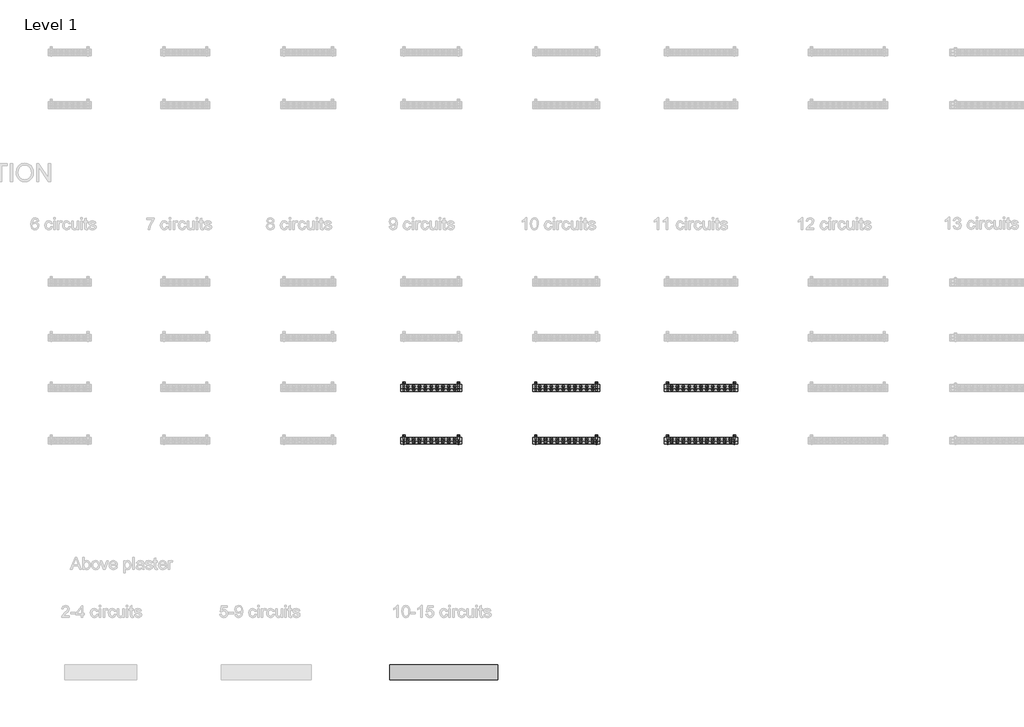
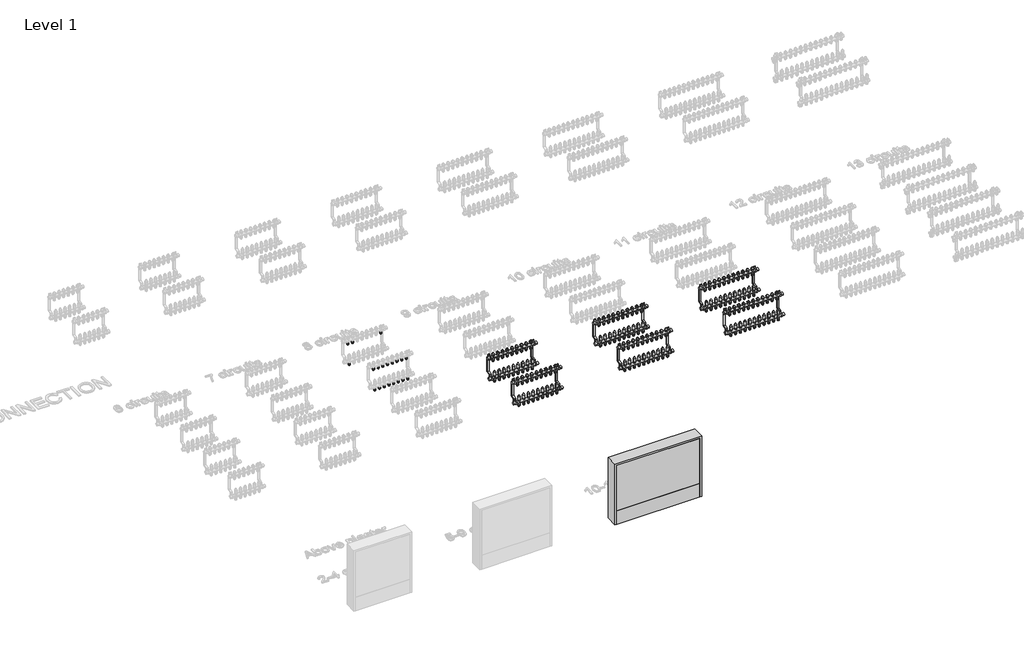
# One storey, part 3 of 23: 140 pipe fittings, 7 valves.
"""IFC4 building model written with IfcOpenShell, lengths in millimetres."""

from ifc_helpers import new_model, si_unit, origin, place, context, project, spatial, transform, mapped, element, save
from components import pipe_fitting_03c6499f, valve_f094e97b, valve_0359cbb0, valve_3285f891, valve_bdae45cc, valve_7e3f3941, valve_882e19a6, valve_5647343c, valve_f26d3ca9, valve_25ad0012, valve_d922645e

model = new_model("IFC4")

# Units and contexts
model_context = context("Model", 3, world=origin())
ifc_project = project(units=[si_unit("LENGTHUNIT", "METRE", prefix="MILLI")], contexts=[model_context])

# Site, building, storey
site = spatial("IfcSite", under=ifc_project)
building = spatial("IfcBuilding", under=site)
storey = spatial("IfcBuildingStorey", under=building, Name="Level 1", Elevation=0.0)

# Pipe fittings
placement = place(None, origin())
pipe_fitting_shape = pipe_fitting_03c6499f(model_context)
element("IfcPipeFitting", 1, ObjectType="Euroconus screwing for multilayer pipes - Manifold FT : Euroconus screwing for multilayer pipes - Manifold FT", at=placement, inside=storey, context=model_context, shape_type="MappedRepresentation", body=[
    mapped(pipe_fitting_shape, transform((7281.836829, -1139.6959314, 272.88733), x_axis=(0.0, 0.0, -1.0), y_axis=(0.0, 1.0000000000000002, 0.0), z_axis=(1.0000000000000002, 0.0, 0.0))),
])
element("IfcPipeFitting", 2, ObjectType="Euroconus screwing for multilayer pipes - Manifold FT : Euroconus screwing for multilayer pipes - Manifold FT", at=placement, inside=storey, context=model_context, shape_type="MappedRepresentation", body=[
    mapped(pipe_fitting_shape, transform((7574.9796862, -1139.6959314, 272.88733), x_axis=(0.0, 0.0, -1.0), y_axis=(0.0, 1.0000000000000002, 0.0), z_axis=(1.0000000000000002, 0.0, 0.0))),
])
element("IfcPipeFitting", 3, ObjectType="Euroconus screwing for multilayer pipes - Manifold FT : Euroconus screwing for multilayer pipes - Manifold FT", at=placement, inside=storey, context=model_context, shape_type="MappedRepresentation", body=[
    mapped(pipe_fitting_shape, transform((7232.9796862, -1164.6959314, 62.88733), x_axis=(0.0, 0.0, -1.0), y_axis=(0.0, 1.0000000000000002, 0.0), z_axis=(1.0000000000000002, 0.0, 0.0))),
])
element("IfcPipeFitting", 4, ObjectType="Euroconus screwing for multilayer pipes - Manifold FT : Euroconus screwing for multilayer pipes - Manifold FT", at=placement, inside=storey, context=model_context, shape_type="MappedRepresentation", body=[
    mapped(pipe_fitting_shape, transform((7232.9796862, -1139.6959314, 272.88733), x_axis=(0.0, 0.0, -1.0), y_axis=(0.0, 1.0000000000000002, 0.0), z_axis=(1.0000000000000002, 0.0, 0.0))),
])
element("IfcPipeFitting", 5, ObjectType="Euroconus screwing for multilayer pipes - Manifold FT : Euroconus screwing for multilayer pipes - Manifold FT", at=placement, inside=storey, context=model_context, shape_type="MappedRepresentation", body=[
    mapped(pipe_fitting_shape, transform((7526.1225433, -1624.6959314, 62.88733), x_axis=(0.0, 0.0, -1.0), y_axis=(0.0, 1.0000000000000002, 0.0), z_axis=(1.0000000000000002, 0.0, 0.0))),
])
element("IfcPipeFitting", 6, ObjectType="Euroconus screwing for multilayer pipes - Manifold FT : Euroconus screwing for multilayer pipes - Manifold FT", at=placement, inside=storey, context=model_context, shape_type="MappedRepresentation", body=[
    mapped(pipe_fitting_shape, transform((7477.2654004, -1624.6959314, 62.88733), x_axis=(0.0, 0.0, -1.0), y_axis=(0.0, 1.0000000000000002, 0.0), z_axis=(1.0000000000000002, 0.0, 0.0))),
])
element("IfcPipeFitting", 7, ObjectType="Euroconus screwing for multilayer pipes - Manifold FT : Euroconus screwing for multilayer pipes - Manifold FT", at=placement, inside=storey, context=model_context, shape_type="MappedRepresentation", body=[
    mapped(pipe_fitting_shape, transform((7428.4082576, -1624.6959314, 62.88733), x_axis=(0.0, 0.0, -1.0), y_axis=(0.0, 1.0000000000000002, 0.0), z_axis=(1.0000000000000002, 0.0, 0.0))),
])
element("IfcPipeFitting", 8, ObjectType="Euroconus screwing for multilayer pipes - Manifold FT : Euroconus screwing for multilayer pipes - Manifold FT", at=placement, inside=storey, context=model_context, shape_type="MappedRepresentation", body=[
    mapped(pipe_fitting_shape, transform((7379.5511147, -1624.6959314, 62.88733), x_axis=(0.0, 0.0, -1.0), y_axis=(0.0, 1.0000000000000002, 0.0), z_axis=(1.0000000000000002, 0.0, 0.0))),
])
element("IfcPipeFitting", 9, ObjectType="Euroconus screwing for multilayer pipes - Manifold FT : Euroconus screwing for multilayer pipes - Manifold FT", at=placement, inside=storey, context=model_context, shape_type="MappedRepresentation", body=[
    mapped(pipe_fitting_shape, transform((7330.6939719, -1624.6959314, 62.88733), x_axis=(0.0, 0.0, -1.0), y_axis=(0.0, 1.0000000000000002, 0.0), z_axis=(1.0000000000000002, 0.0, 0.0))),
])
element("IfcPipeFitting", 10, ObjectType="Euroconus screwing for multilayer pipes - Manifold FT : Euroconus screwing for multilayer pipes - Manifold FT", at=placement, inside=storey, context=model_context, shape_type="MappedRepresentation", body=[
    mapped(pipe_fitting_shape, transform((7281.836829, -1624.6959314, 62.88733), x_axis=(0.0, 0.0, -1.0), y_axis=(0.0, 1.0000000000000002, 0.0), z_axis=(1.0000000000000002, 0.0, 0.0))),
])
element("IfcPipeFitting", 11, ObjectType="Euroconus screwing for multilayer pipes - Manifold FT : Euroconus screwing for multilayer pipes - Manifold FT", at=placement, inside=storey, context=model_context, shape_type="MappedRepresentation", body=[
    mapped(pipe_fitting_shape, transform((7574.9796862, -1624.6959314, 62.88733), x_axis=(0.0, 0.0, -1.0), y_axis=(0.0, 1.0000000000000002, 0.0), z_axis=(1.0000000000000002, 0.0, 0.0))),
])
element("IfcPipeFitting", 12, ObjectType="Euroconus screwing for multilayer pipes - Manifold FT : Euroconus screwing for multilayer pipes - Manifold FT", at=placement, inside=storey, context=model_context, shape_type="MappedRepresentation", body=[
    mapped(pipe_fitting_shape, transform((7526.1225433, -1599.6959314, 272.88733), x_axis=(0.0, 0.0, -1.0), y_axis=(0.0, 1.0000000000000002, 0.0), z_axis=(1.0000000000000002, 0.0, 0.0))),
])
element("IfcPipeFitting", 13, ObjectType="Euroconus screwing for multilayer pipes - Manifold FT : Euroconus screwing for multilayer pipes - Manifold FT", at=placement, inside=storey, context=model_context, shape_type="MappedRepresentation", body=[
    mapped(pipe_fitting_shape, transform((7477.2654004, -1599.6959314, 272.88733), x_axis=(0.0, 0.0, -1.0), y_axis=(0.0, 1.0000000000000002, 0.0), z_axis=(1.0000000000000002, 0.0, 0.0))),
])
element("IfcPipeFitting", 14, ObjectType="Euroconus screwing for multilayer pipes - Manifold FT : Euroconus screwing for multilayer pipes - Manifold FT", at=placement, inside=storey, context=model_context, shape_type="MappedRepresentation", body=[
    mapped(pipe_fitting_shape, transform((7428.4082576, -1599.6959314, 272.88733), x_axis=(0.0, 0.0, -1.0), y_axis=(0.0, 1.0000000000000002, 0.0), z_axis=(1.0000000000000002, 0.0, 0.0))),
])
element("IfcPipeFitting", 15, ObjectType="Euroconus screwing for multilayer pipes - Manifold FT : Euroconus screwing for multilayer pipes - Manifold FT", at=placement, inside=storey, context=model_context, shape_type="MappedRepresentation", body=[
    mapped(pipe_fitting_shape, transform((7379.5511147, -1599.6959314, 272.88733), x_axis=(0.0, 0.0, -1.0), y_axis=(0.0, 1.0000000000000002, 0.0), z_axis=(1.0000000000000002, 0.0, 0.0))),
])
element("IfcPipeFitting", 16, ObjectType="Euroconus screwing for multilayer pipes - Manifold FT : Euroconus screwing for multilayer pipes - Manifold FT", at=placement, inside=storey, context=model_context, shape_type="MappedRepresentation", body=[
    mapped(pipe_fitting_shape, transform((7330.6939719, -1599.6959314, 272.88733), x_axis=(0.0, 0.0, -1.0), y_axis=(0.0, 1.0000000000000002, 0.0), z_axis=(1.0000000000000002, 0.0, 0.0))),
])
element("IfcPipeFitting", 17, ObjectType="Euroconus screwing for multilayer pipes - Manifold FT : Euroconus screwing for multilayer pipes - Manifold FT", at=placement, inside=storey, context=model_context, shape_type="MappedRepresentation", body=[
    mapped(pipe_fitting_shape, transform((7281.836829, -1599.6959314, 272.88733), x_axis=(0.0, 0.0, -1.0), y_axis=(0.0, 1.0000000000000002, 0.0), z_axis=(1.0000000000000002, 0.0, 0.0))),
])
element("IfcPipeFitting", 18, ObjectType="Euroconus screwing for multilayer pipes - Manifold FT : Euroconus screwing for multilayer pipes - Manifold FT", at=placement, inside=storey, context=model_context, shape_type="MappedRepresentation", body=[
    mapped(pipe_fitting_shape, transform((7574.9796862, -1599.6959314, 272.88733), x_axis=(0.0, 0.0, -1.0), y_axis=(0.0, 1.0000000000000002, 0.0), z_axis=(1.0000000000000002, 0.0, 0.0))),
])
element("IfcPipeFitting", 19, ObjectType="Euroconus screwing for multilayer pipes - Manifold FT : Euroconus screwing for multilayer pipes - Manifold FT", at=placement, inside=storey, context=model_context, shape_type="MappedRepresentation", body=[
    mapped(pipe_fitting_shape, transform((7232.9796862, -1624.6959314, 62.88733), x_axis=(0.0, 0.0, -1.0), y_axis=(0.0, 1.0000000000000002, 0.0), z_axis=(1.0000000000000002, 0.0, 0.0))),
])
element("IfcPipeFitting", 20, ObjectType="Euroconus screwing for multilayer pipes - Manifold FT : Euroconus screwing for multilayer pipes - Manifold FT", at=placement, inside=storey, context=model_context, shape_type="MappedRepresentation", body=[
    mapped(pipe_fitting_shape, transform((7232.9796862, -1599.6959314, 272.88733), x_axis=(0.0, 0.0, -1.0), y_axis=(0.0, 1.0000000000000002, 0.0), z_axis=(1.0000000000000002, 0.0, 0.0))),
])
element("IfcPipeFitting", 21, ObjectType="Euroconus screwing for multilayer pipes - Manifold FT : Euroconus screwing for multilayer pipes - Manifold FT", at=placement, inside=storey, context=model_context, shape_type="MappedRepresentation", body=[
    mapped(pipe_fitting_shape, transform((8575.9796862, -2044.6959314, 62.88733), x_axis=(0.0, 0.0, -1.0), y_axis=(0.0, 1.0000000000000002, 0.0), z_axis=(1.0000000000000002, 0.0, 0.0))),
])
element("IfcPipeFitting", 22, ObjectType="Euroconus screwing for multilayer pipes - Manifold FT : Euroconus screwing for multilayer pipes - Manifold FT", at=placement, inside=storey, context=model_context, shape_type="MappedRepresentation", body=[
    mapped(pipe_fitting_shape, transform((8526.9796862, -2044.6959314, 62.88733), x_axis=(0.0, 0.0, -1.0), y_axis=(0.0, 1.0000000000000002, 0.0), z_axis=(1.0000000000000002, 0.0, 0.0))),
])
element("IfcPipeFitting", 23, ObjectType="Euroconus screwing for multilayer pipes - Manifold FT : Euroconus screwing for multilayer pipes - Manifold FT", at=placement, inside=storey, context=model_context, shape_type="MappedRepresentation", body=[
    mapped(pipe_fitting_shape, transform((8477.9796862, -2044.6959314, 62.88733), x_axis=(0.0, 0.0, -1.0), y_axis=(0.0, 1.0000000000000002, 0.0), z_axis=(1.0000000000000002, 0.0, 0.0))),
])
element("IfcPipeFitting", 24, ObjectType="Euroconus screwing for multilayer pipes - Manifold FT : Euroconus screwing for multilayer pipes - Manifold FT", at=placement, inside=storey, context=model_context, shape_type="MappedRepresentation", body=[
    mapped(pipe_fitting_shape, transform((8428.9796862, -2044.6959314, 62.88733), x_axis=(0.0, 0.0, -1.0), y_axis=(0.0, 1.0000000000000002, 0.0), z_axis=(1.0000000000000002, 0.0, 0.0))),
])
element("IfcPipeFitting", 25, ObjectType="Euroconus screwing for multilayer pipes - Manifold FT : Euroconus screwing for multilayer pipes - Manifold FT", at=placement, inside=storey, context=model_context, shape_type="MappedRepresentation", body=[
    mapped(pipe_fitting_shape, transform((8379.9796862, -2044.6959314, 62.88733), x_axis=(0.0, 0.0, -1.0), y_axis=(0.0, 1.0000000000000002, 0.0), z_axis=(1.0000000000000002, 0.0, 0.0))),
])
element("IfcPipeFitting", 26, ObjectType="Euroconus screwing for multilayer pipes - Manifold FT : Euroconus screwing for multilayer pipes - Manifold FT", at=placement, inside=storey, context=model_context, shape_type="MappedRepresentation", body=[
    mapped(pipe_fitting_shape, transform((8330.9796862, -2044.6959314, 62.88733), x_axis=(0.0, 0.0, -1.0), y_axis=(0.0, 1.0000000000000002, 0.0), z_axis=(1.0000000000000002, 0.0, 0.0))),
])
element("IfcPipeFitting", 27, ObjectType="Euroconus screwing for multilayer pipes - Manifold FT : Euroconus screwing for multilayer pipes - Manifold FT", at=placement, inside=storey, context=model_context, shape_type="MappedRepresentation", body=[
    mapped(pipe_fitting_shape, transform((8281.9796862, -2044.6959314, 62.88733), x_axis=(0.0, 0.0, -1.0), y_axis=(0.0, 1.0000000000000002, 0.0), z_axis=(1.0000000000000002, 0.0, 0.0))),
])
element("IfcPipeFitting", 28, ObjectType="Euroconus screwing for multilayer pipes - Manifold FT : Euroconus screwing for multilayer pipes - Manifold FT", at=placement, inside=storey, context=model_context, shape_type="MappedRepresentation", body=[
    mapped(pipe_fitting_shape, transform((8624.9796862, -2044.6959314, 62.88733), x_axis=(0.0, 0.0, -1.0), y_axis=(0.0, 1.0000000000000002, 0.0), z_axis=(1.0000000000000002, 0.0, 0.0))),
])
element("IfcPipeFitting", 29, ObjectType="Euroconus screwing for multilayer pipes - Manifold FT : Euroconus screwing for multilayer pipes - Manifold FT", at=placement, inside=storey, context=model_context, shape_type="MappedRepresentation", body=[
    mapped(pipe_fitting_shape, transform((8575.9796862, -2019.6959314, 272.88733), x_axis=(0.0, 0.0, -1.0), y_axis=(0.0, 1.0000000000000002, 0.0), z_axis=(1.0000000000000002, 0.0, 0.0))),
])
element("IfcPipeFitting", 30, ObjectType="Euroconus screwing for multilayer pipes - Manifold FT : Euroconus screwing for multilayer pipes - Manifold FT", at=placement, inside=storey, context=model_context, shape_type="MappedRepresentation", body=[
    mapped(pipe_fitting_shape, transform((8526.9796862, -2019.6959314, 272.88733), x_axis=(0.0, 0.0, -1.0), y_axis=(0.0, 1.0000000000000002, 0.0), z_axis=(1.0000000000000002, 0.0, 0.0))),
])
element("IfcPipeFitting", 31, ObjectType="Euroconus screwing for multilayer pipes - Manifold FT : Euroconus screwing for multilayer pipes - Manifold FT", at=placement, inside=storey, context=model_context, shape_type="MappedRepresentation", body=[
    mapped(pipe_fitting_shape, transform((8477.9796862, -2019.6959314, 272.88733), x_axis=(0.0, 0.0, -1.0), y_axis=(0.0, 1.0000000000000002, 0.0), z_axis=(1.0000000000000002, 0.0, 0.0))),
])
element("IfcPipeFitting", 32, ObjectType="Euroconus screwing for multilayer pipes - Manifold FT : Euroconus screwing for multilayer pipes - Manifold FT", at=placement, inside=storey, context=model_context, shape_type="MappedRepresentation", body=[
    mapped(pipe_fitting_shape, transform((8428.9796862, -2019.6959314, 272.88733), x_axis=(0.0, 0.0, -1.0), y_axis=(0.0, 1.0000000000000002, 0.0), z_axis=(1.0000000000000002, 0.0, 0.0))),
])
element("IfcPipeFitting", 33, ObjectType="Euroconus screwing for multilayer pipes - Manifold FT : Euroconus screwing for multilayer pipes - Manifold FT", at=placement, inside=storey, context=model_context, shape_type="MappedRepresentation", body=[
    mapped(pipe_fitting_shape, transform((8379.9796862, -2019.6959314, 272.88733), x_axis=(0.0, 0.0, -1.0), y_axis=(0.0, 1.0000000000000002, 0.0), z_axis=(1.0000000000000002, 0.0, 0.0))),
])
element("IfcPipeFitting", 34, ObjectType="Euroconus screwing for multilayer pipes - Manifold FT : Euroconus screwing for multilayer pipes - Manifold FT", at=placement, inside=storey, context=model_context, shape_type="MappedRepresentation", body=[
    mapped(pipe_fitting_shape, transform((8330.9796862, -2019.6959314, 272.88733), x_axis=(0.0, 0.0, -1.0), y_axis=(0.0, 1.0000000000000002, 0.0), z_axis=(1.0000000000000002, 0.0, 0.0))),
])
element("IfcPipeFitting", 35, ObjectType="Euroconus screwing for multilayer pipes - Manifold FT : Euroconus screwing for multilayer pipes - Manifold FT", at=placement, inside=storey, context=model_context, shape_type="MappedRepresentation", body=[
    mapped(pipe_fitting_shape, transform((8281.9796862, -2019.6959314, 272.88733), x_axis=(0.0, 0.0, -1.0), y_axis=(0.0, 1.0000000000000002, 0.0), z_axis=(1.0000000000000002, 0.0, 0.0))),
])
element("IfcPipeFitting", 36, ObjectType="Euroconus screwing for multilayer pipes - Manifold FT : Euroconus screwing for multilayer pipes - Manifold FT", at=placement, inside=storey, context=model_context, shape_type="MappedRepresentation", body=[
    mapped(pipe_fitting_shape, transform((8624.9796862, -2019.6959314, 272.88733), x_axis=(0.0, 0.0, -1.0), y_axis=(0.0, 1.0000000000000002, 0.0), z_axis=(1.0000000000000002, 0.0, 0.0))),
])
element("IfcPipeFitting", 37, ObjectType="Euroconus screwing for multilayer pipes - Manifold FT : Euroconus screwing for multilayer pipes - Manifold FT", at=placement, inside=storey, context=model_context, shape_type="MappedRepresentation", body=[
    mapped(pipe_fitting_shape, transform((8232.9796862, -2044.6959314, 62.88733), x_axis=(0.0, 0.0, -1.0), y_axis=(0.0, 1.0000000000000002, 0.0), z_axis=(1.0000000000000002, 0.0, 0.0))),
])
element("IfcPipeFitting", 38, ObjectType="Euroconus screwing for multilayer pipes - Manifold FT : Euroconus screwing for multilayer pipes - Manifold FT", at=placement, inside=storey, context=model_context, shape_type="MappedRepresentation", body=[
    mapped(pipe_fitting_shape, transform((8232.9796862, -2019.6959314, 272.88733), x_axis=(0.0, 0.0, -1.0), y_axis=(0.0, 1.0000000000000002, 0.0), z_axis=(1.0000000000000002, 0.0, 0.0))),
])
element("IfcPipeFitting", 39, ObjectType="Euroconus screwing for multilayer pipes - Manifold FT : Euroconus screwing for multilayer pipes - Manifold FT", at=placement, inside=storey, context=model_context, shape_type="MappedRepresentation", body=[
    mapped(pipe_fitting_shape, transform((9725.8685751, -2044.6959314, 62.88733), x_axis=(0.0, 0.0, -1.0), y_axis=(0.0, 1.0000000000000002, 0.0), z_axis=(1.0000000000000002, 0.0, 0.0))),
])
element("IfcPipeFitting", 40, ObjectType="Euroconus screwing for multilayer pipes - Manifold FT : Euroconus screwing for multilayer pipes - Manifold FT", at=placement, inside=storey, context=model_context, shape_type="MappedRepresentation", body=[
    mapped(pipe_fitting_shape, transform((9676.7574639, -2044.6959314, 62.88733), x_axis=(0.0, 0.0, -1.0), y_axis=(0.0, 1.0000000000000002, 0.0), z_axis=(1.0000000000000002, 0.0, 0.0))),
])
element("IfcPipeFitting", 41, ObjectType="Euroconus screwing for multilayer pipes - Manifold FT : Euroconus screwing for multilayer pipes - Manifold FT", at=placement, inside=storey, context=model_context, shape_type="MappedRepresentation", body=[
    mapped(pipe_fitting_shape, transform((9627.6463528, -2044.6959314, 62.88733), x_axis=(0.0, 0.0, -1.0), y_axis=(0.0, 1.0000000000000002, 0.0), z_axis=(1.0000000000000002, 0.0, 0.0))),
])
element("IfcPipeFitting", 42, ObjectType="Euroconus screwing for multilayer pipes - Manifold FT : Euroconus screwing for multilayer pipes - Manifold FT", at=placement, inside=storey, context=model_context, shape_type="MappedRepresentation", body=[
    mapped(pipe_fitting_shape, transform((9578.5352417, -2044.6959314, 62.88733), x_axis=(0.0, 0.0, -1.0), y_axis=(0.0, 1.0000000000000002, 0.0), z_axis=(1.0000000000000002, 0.0, 0.0))),
])
element("IfcPipeFitting", 43, ObjectType="Euroconus screwing for multilayer pipes - Manifold FT : Euroconus screwing for multilayer pipes - Manifold FT", at=placement, inside=storey, context=model_context, shape_type="MappedRepresentation", body=[
    mapped(pipe_fitting_shape, transform((9529.4241306, -2044.6959314, 62.88733), x_axis=(0.0, 0.0, -1.0), y_axis=(0.0, 1.0000000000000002, 0.0), z_axis=(1.0000000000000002, 0.0, 0.0))),
])
element("IfcPipeFitting", 44, ObjectType="Euroconus screwing for multilayer pipes - Manifold FT : Euroconus screwing for multilayer pipes - Manifold FT", at=placement, inside=storey, context=model_context, shape_type="MappedRepresentation", body=[
    mapped(pipe_fitting_shape, transform((9480.3130195, -2044.6959314, 62.88733), x_axis=(0.0, 0.0, -1.0), y_axis=(0.0, 1.0000000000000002, 0.0), z_axis=(1.0000000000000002, 0.0, 0.0))),
])
element("IfcPipeFitting", 45, ObjectType="Euroconus screwing for multilayer pipes - Manifold FT : Euroconus screwing for multilayer pipes - Manifold FT", at=placement, inside=storey, context=model_context, shape_type="MappedRepresentation", body=[
    mapped(pipe_fitting_shape, transform((9431.2019084, -2044.6959314, 62.88733), x_axis=(0.0, 0.0, -1.0), y_axis=(0.0, 1.0000000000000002, 0.0), z_axis=(1.0000000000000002, 0.0, 0.0))),
])
element("IfcPipeFitting", 46, ObjectType="Euroconus screwing for multilayer pipes - Manifold FT : Euroconus screwing for multilayer pipes - Manifold FT", at=placement, inside=storey, context=model_context, shape_type="MappedRepresentation", body=[
    mapped(pipe_fitting_shape, transform((9382.0907973, -2044.6959314, 62.88733), x_axis=(0.0, 0.0, -1.0), y_axis=(0.0, 1.0000000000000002, 0.0), z_axis=(1.0000000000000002, 0.0, 0.0))),
])
element("IfcPipeFitting", 47, ObjectType="Euroconus screwing for multilayer pipes - Manifold FT : Euroconus screwing for multilayer pipes - Manifold FT", at=placement, inside=storey, context=model_context, shape_type="MappedRepresentation", body=[
    mapped(pipe_fitting_shape, transform((9774.9796862, -2044.6959314, 62.88733), x_axis=(0.0, 0.0, -1.0), y_axis=(0.0, 1.0000000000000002, 0.0), z_axis=(1.0000000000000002, 0.0, 0.0))),
])
element("IfcPipeFitting", 48, ObjectType="Euroconus screwing for multilayer pipes - Manifold FT : Euroconus screwing for multilayer pipes - Manifold FT", at=placement, inside=storey, context=model_context, shape_type="MappedRepresentation", body=[
    mapped(pipe_fitting_shape, transform((9725.8685751, -2019.6959314, 272.88733), x_axis=(0.0, 0.0, -1.0), y_axis=(0.0, 1.0000000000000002, 0.0), z_axis=(1.0000000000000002, 0.0, 0.0))),
])
element("IfcPipeFitting", 49, ObjectType="Euroconus screwing for multilayer pipes - Manifold FT : Euroconus screwing for multilayer pipes - Manifold FT", at=placement, inside=storey, context=model_context, shape_type="MappedRepresentation", body=[
    mapped(pipe_fitting_shape, transform((9676.7574639, -2019.6959314, 272.88733), x_axis=(0.0, 0.0, -1.0), y_axis=(0.0, 1.0000000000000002, 0.0), z_axis=(1.0000000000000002, 0.0, 0.0))),
])
element("IfcPipeFitting", 50, ObjectType="Euroconus screwing for multilayer pipes - Manifold FT : Euroconus screwing for multilayer pipes - Manifold FT", at=placement, inside=storey, context=model_context, shape_type="MappedRepresentation", body=[
    mapped(pipe_fitting_shape, transform((9627.6463528, -2019.6959314, 272.88733), x_axis=(0.0, 0.0, -1.0), y_axis=(0.0, 1.0000000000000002, 0.0), z_axis=(1.0000000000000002, 0.0, 0.0))),
])
element("IfcPipeFitting", 51, ObjectType="Euroconus screwing for multilayer pipes - Manifold FT : Euroconus screwing for multilayer pipes - Manifold FT", at=placement, inside=storey, context=model_context, shape_type="MappedRepresentation", body=[
    mapped(pipe_fitting_shape, transform((9578.5352417, -2019.6959314, 272.88733), x_axis=(0.0, 0.0, -1.0), y_axis=(0.0, 1.0000000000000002, 0.0), z_axis=(1.0000000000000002, 0.0, 0.0))),
])
element("IfcPipeFitting", 52, ObjectType="Euroconus screwing for multilayer pipes - Manifold FT : Euroconus screwing for multilayer pipes - Manifold FT", at=placement, inside=storey, context=model_context, shape_type="MappedRepresentation", body=[
    mapped(pipe_fitting_shape, transform((9529.4241306, -2019.6959314, 272.88733), x_axis=(0.0, 0.0, -1.0), y_axis=(0.0, 1.0000000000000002, 0.0), z_axis=(1.0000000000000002, 0.0, 0.0))),
])
element("IfcPipeFitting", 53, ObjectType="Euroconus screwing for multilayer pipes - Manifold FT : Euroconus screwing for multilayer pipes - Manifold FT", at=placement, inside=storey, context=model_context, shape_type="MappedRepresentation", body=[
    mapped(pipe_fitting_shape, transform((9480.3130195, -2019.6959314, 272.88733), x_axis=(0.0, 0.0, -1.0), y_axis=(0.0, 1.0000000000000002, 0.0), z_axis=(1.0000000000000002, 0.0, 0.0))),
])
element("IfcPipeFitting", 54, ObjectType="Euroconus screwing for multilayer pipes - Manifold FT : Euroconus screwing for multilayer pipes - Manifold FT", at=placement, inside=storey, context=model_context, shape_type="MappedRepresentation", body=[
    mapped(pipe_fitting_shape, transform((9431.2019084, -2019.6959314, 272.88733), x_axis=(0.0, 0.0, -1.0), y_axis=(0.0, 1.0000000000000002, 0.0), z_axis=(1.0000000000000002, 0.0, 0.0))),
])
element("IfcPipeFitting", 55, ObjectType="Euroconus screwing for multilayer pipes - Manifold FT : Euroconus screwing for multilayer pipes - Manifold FT", at=placement, inside=storey, context=model_context, shape_type="MappedRepresentation", body=[
    mapped(pipe_fitting_shape, transform((9382.0907973, -2019.6959314, 272.88733), x_axis=(0.0, 0.0, -1.0), y_axis=(0.0, 1.0000000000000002, 0.0), z_axis=(1.0000000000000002, 0.0, 0.0))),
])
element("IfcPipeFitting", 56, ObjectType="Euroconus screwing for multilayer pipes - Manifold FT : Euroconus screwing for multilayer pipes - Manifold FT", at=placement, inside=storey, context=model_context, shape_type="MappedRepresentation", body=[
    mapped(pipe_fitting_shape, transform((9774.9796862, -2019.6959314, 272.88733), x_axis=(0.0, 0.0, -1.0), y_axis=(0.0, 1.0000000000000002, 0.0), z_axis=(1.0000000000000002, 0.0, 0.0))),
])
element("IfcPipeFitting", 57, ObjectType="Euroconus screwing for multilayer pipes - Manifold FT : Euroconus screwing for multilayer pipes - Manifold FT", at=placement, inside=storey, context=model_context, shape_type="MappedRepresentation", body=[
    mapped(pipe_fitting_shape, transform((9332.9796862, -2044.6959314, 62.88733), x_axis=(0.0, 0.0, -1.0), y_axis=(0.0, 1.0000000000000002, 0.0), z_axis=(1.0000000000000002, 0.0, 0.0))),
])
element("IfcPipeFitting", 58, ObjectType="Euroconus screwing for multilayer pipes - Manifold FT : Euroconus screwing for multilayer pipes - Manifold FT", at=placement, inside=storey, context=model_context, shape_type="MappedRepresentation", body=[
    mapped(pipe_fitting_shape, transform((9332.9796862, -2019.6959314, 272.88733), x_axis=(0.0, 0.0, -1.0), y_axis=(0.0, 1.0000000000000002, 0.0), z_axis=(1.0000000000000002, 0.0, 0.0))),
])
element("IfcPipeFitting", 59, ObjectType="Euroconus screwing for multilayer pipes - Manifold FT : Euroconus screwing for multilayer pipes - Manifold FT", at=placement, inside=storey, context=model_context, shape_type="MappedRepresentation", body=[
    mapped(pipe_fitting_shape, transform((10875.7796862, -2044.6959314, 62.88733), x_axis=(0.0, 0.0, -1.0), y_axis=(0.0, 1.0000000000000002, 0.0), z_axis=(1.0000000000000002, 0.0, 0.0))),
])
element("IfcPipeFitting", 60, ObjectType="Euroconus screwing for multilayer pipes - Manifold FT : Euroconus screwing for multilayer pipes - Manifold FT", at=placement, inside=storey, context=model_context, shape_type="MappedRepresentation", body=[
    mapped(pipe_fitting_shape, transform((10826.5796862, -2044.6959314, 62.88733), x_axis=(0.0, 0.0, -1.0), y_axis=(0.0, 1.0000000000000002, 0.0), z_axis=(1.0000000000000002, 0.0, 0.0))),
])
element("IfcPipeFitting", 61, ObjectType="Euroconus screwing for multilayer pipes - Manifold FT : Euroconus screwing for multilayer pipes - Manifold FT", at=placement, inside=storey, context=model_context, shape_type="MappedRepresentation", body=[
    mapped(pipe_fitting_shape, transform((10777.3796862, -2044.6959314, 62.88733), x_axis=(0.0, 0.0, -1.0), y_axis=(0.0, 1.0000000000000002, 0.0), z_axis=(1.0000000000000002, 0.0, 0.0))),
])
element("IfcPipeFitting", 62, ObjectType="Euroconus screwing for multilayer pipes - Manifold FT : Euroconus screwing for multilayer pipes - Manifold FT", at=placement, inside=storey, context=model_context, shape_type="MappedRepresentation", body=[
    mapped(pipe_fitting_shape, transform((10728.1796862, -2044.6959314, 62.88733), x_axis=(0.0, 0.0, -1.0), y_axis=(0.0, 1.0000000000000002, 0.0), z_axis=(1.0000000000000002, 0.0, 0.0))),
])
element("IfcPipeFitting", 63, ObjectType="Euroconus screwing for multilayer pipes - Manifold FT : Euroconus screwing for multilayer pipes - Manifold FT", at=placement, inside=storey, context=model_context, shape_type="MappedRepresentation", body=[
    mapped(pipe_fitting_shape, transform((10678.9796862, -2044.6959314, 62.88733), x_axis=(0.0, 0.0, -1.0), y_axis=(0.0, 1.0000000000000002, 0.0), z_axis=(1.0000000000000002, 0.0, 0.0))),
])
element("IfcPipeFitting", 64, ObjectType="Euroconus screwing for multilayer pipes - Manifold FT : Euroconus screwing for multilayer pipes - Manifold FT", at=placement, inside=storey, context=model_context, shape_type="MappedRepresentation", body=[
    mapped(pipe_fitting_shape, transform((10629.7796862, -2044.6959314, 62.88733), x_axis=(0.0, 0.0, -1.0), y_axis=(0.0, 1.0000000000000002, 0.0), z_axis=(1.0000000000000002, 0.0, 0.0))),
])
element("IfcPipeFitting", 65, ObjectType="Euroconus screwing for multilayer pipes - Manifold FT : Euroconus screwing for multilayer pipes - Manifold FT", at=placement, inside=storey, context=model_context, shape_type="MappedRepresentation", body=[
    mapped(pipe_fitting_shape, transform((10580.5796862, -2044.6959314, 62.88733), x_axis=(0.0, 0.0, -1.0), y_axis=(0.0, 1.0000000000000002, 0.0), z_axis=(1.0000000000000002, 0.0, 0.0))),
])
element("IfcPipeFitting", 66, ObjectType="Euroconus screwing for multilayer pipes - Manifold FT : Euroconus screwing for multilayer pipes - Manifold FT", at=placement, inside=storey, context=model_context, shape_type="MappedRepresentation", body=[
    mapped(pipe_fitting_shape, transform((10531.3796862, -2044.6959314, 62.88733), x_axis=(0.0, 0.0, -1.0), y_axis=(0.0, 1.0000000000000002, 0.0), z_axis=(1.0000000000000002, 0.0, 0.0))),
])
element("IfcPipeFitting", 67, ObjectType="Euroconus screwing for multilayer pipes - Manifold FT : Euroconus screwing for multilayer pipes - Manifold FT", at=placement, inside=storey, context=model_context, shape_type="MappedRepresentation", body=[
    mapped(pipe_fitting_shape, transform((10482.1796862, -2044.6959314, 62.88733), x_axis=(0.0, 0.0, -1.0), y_axis=(0.0, 1.0000000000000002, 0.0), z_axis=(1.0000000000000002, 0.0, 0.0))),
])
element("IfcPipeFitting", 68, ObjectType="Euroconus screwing for multilayer pipes - Manifold FT : Euroconus screwing for multilayer pipes - Manifold FT", at=placement, inside=storey, context=model_context, shape_type="MappedRepresentation", body=[
    mapped(pipe_fitting_shape, transform((10924.9796862, -2044.6959314, 62.88733), x_axis=(0.0, 0.0, -1.0), y_axis=(0.0, 1.0000000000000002, 0.0), z_axis=(1.0000000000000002, 0.0, 0.0))),
])
element("IfcPipeFitting", 69, ObjectType="Euroconus screwing for multilayer pipes - Manifold FT : Euroconus screwing for multilayer pipes - Manifold FT", at=placement, inside=storey, context=model_context, shape_type="MappedRepresentation", body=[
    mapped(pipe_fitting_shape, transform((10875.7796862, -2019.6959314, 272.88733), x_axis=(0.0, 0.0, -1.0), y_axis=(0.0, 1.0000000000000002, 0.0), z_axis=(1.0000000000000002, 0.0, 0.0))),
])
element("IfcPipeFitting", 70, ObjectType="Euroconus screwing for multilayer pipes - Manifold FT : Euroconus screwing for multilayer pipes - Manifold FT", at=placement, inside=storey, context=model_context, shape_type="MappedRepresentation", body=[
    mapped(pipe_fitting_shape, transform((10826.5796862, -2019.6959314, 272.88733), x_axis=(0.0, 0.0, -1.0), y_axis=(0.0, 1.0000000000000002, 0.0), z_axis=(1.0000000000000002, 0.0, 0.0))),
])
element("IfcPipeFitting", 71, ObjectType="Euroconus screwing for multilayer pipes - Manifold FT : Euroconus screwing for multilayer pipes - Manifold FT", at=placement, inside=storey, context=model_context, shape_type="MappedRepresentation", body=[
    mapped(pipe_fitting_shape, transform((10777.3796862, -2019.6959314, 272.88733), x_axis=(0.0, 0.0, -1.0), y_axis=(0.0, 1.0000000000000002, 0.0), z_axis=(1.0000000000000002, 0.0, 0.0))),
])
element("IfcPipeFitting", 72, ObjectType="Euroconus screwing for multilayer pipes - Manifold FT : Euroconus screwing for multilayer pipes - Manifold FT", at=placement, inside=storey, context=model_context, shape_type="MappedRepresentation", body=[
    mapped(pipe_fitting_shape, transform((10728.1796862, -2019.6959314, 272.88733), x_axis=(0.0, 0.0, -1.0), y_axis=(0.0, 1.0000000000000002, 0.0), z_axis=(1.0000000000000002, 0.0, 0.0))),
])
element("IfcPipeFitting", 73, ObjectType="Euroconus screwing for multilayer pipes - Manifold FT : Euroconus screwing for multilayer pipes - Manifold FT", at=placement, inside=storey, context=model_context, shape_type="MappedRepresentation", body=[
    mapped(pipe_fitting_shape, transform((10678.9796862, -2019.6959314, 272.88733), x_axis=(0.0, 0.0, -1.0), y_axis=(0.0, 1.0000000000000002, 0.0), z_axis=(1.0000000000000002, 0.0, 0.0))),
])
element("IfcPipeFitting", 74, ObjectType="Euroconus screwing for multilayer pipes - Manifold FT : Euroconus screwing for multilayer pipes - Manifold FT", at=placement, inside=storey, context=model_context, shape_type="MappedRepresentation", body=[
    mapped(pipe_fitting_shape, transform((10629.7796862, -2019.6959314, 272.88733), x_axis=(0.0, 0.0, -1.0), y_axis=(0.0, 1.0000000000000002, 0.0), z_axis=(1.0000000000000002, 0.0, 0.0))),
])
element("IfcPipeFitting", 75, ObjectType="Euroconus screwing for multilayer pipes - Manifold FT : Euroconus screwing for multilayer pipes - Manifold FT", at=placement, inside=storey, context=model_context, shape_type="MappedRepresentation", body=[
    mapped(pipe_fitting_shape, transform((10580.5796862, -2019.6959314, 272.88733), x_axis=(0.0, 0.0, -1.0), y_axis=(0.0, 1.0000000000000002, 0.0), z_axis=(1.0000000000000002, 0.0, 0.0))),
])
element("IfcPipeFitting", 76, ObjectType="Euroconus screwing for multilayer pipes - Manifold FT : Euroconus screwing for multilayer pipes - Manifold FT", at=placement, inside=storey, context=model_context, shape_type="MappedRepresentation", body=[
    mapped(pipe_fitting_shape, transform((10531.3796862, -2019.6959314, 272.88733), x_axis=(0.0, 0.0, -1.0), y_axis=(0.0, 1.0000000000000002, 0.0), z_axis=(1.0000000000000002, 0.0, 0.0))),
])
element("IfcPipeFitting", 77, ObjectType="Euroconus screwing for multilayer pipes - Manifold FT : Euroconus screwing for multilayer pipes - Manifold FT", at=placement, inside=storey, context=model_context, shape_type="MappedRepresentation", body=[
    mapped(pipe_fitting_shape, transform((10482.1796862, -2019.6959314, 272.88733), x_axis=(0.0, 0.0, -1.0), y_axis=(0.0, 1.0000000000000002, 0.0), z_axis=(1.0000000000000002, 0.0, 0.0))),
])
element("IfcPipeFitting", 78, ObjectType="Euroconus screwing for multilayer pipes - Manifold FT : Euroconus screwing for multilayer pipes - Manifold FT", at=placement, inside=storey, context=model_context, shape_type="MappedRepresentation", body=[
    mapped(pipe_fitting_shape, transform((10924.9796862, -2019.6959314, 272.88733), x_axis=(0.0, 0.0, -1.0), y_axis=(0.0, 1.0000000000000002, 0.0), z_axis=(1.0000000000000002, 0.0, 0.0))),
])
element("IfcPipeFitting", 79, ObjectType="Euroconus screwing for multilayer pipes - Manifold FT : Euroconus screwing for multilayer pipes - Manifold FT", at=placement, inside=storey, context=model_context, shape_type="MappedRepresentation", body=[
    mapped(pipe_fitting_shape, transform((10432.9796862, -2044.6959314, 62.88733), x_axis=(0.0, 0.0, -1.0), y_axis=(0.0, 1.0000000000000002, 0.0), z_axis=(1.0000000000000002, 0.0, 0.0))),
])
element("IfcPipeFitting", 80, ObjectType="Euroconus screwing for multilayer pipes - Manifold FT : Euroconus screwing for multilayer pipes - Manifold FT", at=placement, inside=storey, context=model_context, shape_type="MappedRepresentation", body=[
    mapped(pipe_fitting_shape, transform((10432.9796862, -2019.6959314, 272.88733), x_axis=(0.0, 0.0, -1.0), y_axis=(0.0, 1.0000000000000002, 0.0), z_axis=(1.0000000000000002, 0.0, 0.0))),
])
element("IfcPipeFitting", 81, ObjectType="Euroconus screwing for multilayer pipes - Manifold FT : Euroconus screwing for multilayer pipes - Manifold FT", at=placement, inside=storey, context=model_context, shape_type="MappedRepresentation", body=[
    mapped(pipe_fitting_shape, transform((8575.9796862, -2484.6959314, 62.88733), x_axis=(0.0, 0.0, -1.0), y_axis=(0.0, 1.0000000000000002, 0.0), z_axis=(1.0000000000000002, 0.0, 0.0))),
])
element("IfcPipeFitting", 82, ObjectType="Euroconus screwing for multilayer pipes - Manifold FT : Euroconus screwing for multilayer pipes - Manifold FT", at=placement, inside=storey, context=model_context, shape_type="MappedRepresentation", body=[
    mapped(pipe_fitting_shape, transform((8526.9796862, -2484.6959314, 62.88733), x_axis=(0.0, 0.0, -1.0), y_axis=(0.0, 1.0000000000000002, 0.0), z_axis=(1.0000000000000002, 0.0, 0.0))),
])
element("IfcPipeFitting", 83, ObjectType="Euroconus screwing for multilayer pipes - Manifold FT : Euroconus screwing for multilayer pipes - Manifold FT", at=placement, inside=storey, context=model_context, shape_type="MappedRepresentation", body=[
    mapped(pipe_fitting_shape, transform((8477.9796862, -2484.6959314, 62.88733), x_axis=(0.0, 0.0, -1.0), y_axis=(0.0, 1.0000000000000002, 0.0), z_axis=(1.0000000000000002, 0.0, 0.0))),
])
element("IfcPipeFitting", 84, ObjectType="Euroconus screwing for multilayer pipes - Manifold FT : Euroconus screwing for multilayer pipes - Manifold FT", at=placement, inside=storey, context=model_context, shape_type="MappedRepresentation", body=[
    mapped(pipe_fitting_shape, transform((8428.9796862, -2484.6959314, 62.88733), x_axis=(0.0, 0.0, -1.0), y_axis=(0.0, 1.0000000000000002, 0.0), z_axis=(1.0000000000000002, 0.0, 0.0))),
])
element("IfcPipeFitting", 85, ObjectType="Euroconus screwing for multilayer pipes - Manifold FT : Euroconus screwing for multilayer pipes - Manifold FT", at=placement, inside=storey, context=model_context, shape_type="MappedRepresentation", body=[
    mapped(pipe_fitting_shape, transform((8379.9796862, -2484.6959314, 62.88733), x_axis=(0.0, 0.0, -1.0), y_axis=(0.0, 1.0000000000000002, 0.0), z_axis=(1.0000000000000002, 0.0, 0.0))),
])
element("IfcPipeFitting", 86, ObjectType="Euroconus screwing for multilayer pipes - Manifold FT : Euroconus screwing for multilayer pipes - Manifold FT", at=placement, inside=storey, context=model_context, shape_type="MappedRepresentation", body=[
    mapped(pipe_fitting_shape, transform((8330.9796862, -2484.6959314, 62.88733), x_axis=(0.0, 0.0, -1.0), y_axis=(0.0, 1.0000000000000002, 0.0), z_axis=(1.0000000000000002, 0.0, 0.0))),
])
element("IfcPipeFitting", 87, ObjectType="Euroconus screwing for multilayer pipes - Manifold FT : Euroconus screwing for multilayer pipes - Manifold FT", at=placement, inside=storey, context=model_context, shape_type="MappedRepresentation", body=[
    mapped(pipe_fitting_shape, transform((8281.9796862, -2484.6959314, 62.88733), x_axis=(0.0, 0.0, -1.0), y_axis=(0.0, 1.0000000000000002, 0.0), z_axis=(1.0000000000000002, 0.0, 0.0))),
])
element("IfcPipeFitting", 88, ObjectType="Euroconus screwing for multilayer pipes - Manifold FT : Euroconus screwing for multilayer pipes - Manifold FT", at=placement, inside=storey, context=model_context, shape_type="MappedRepresentation", body=[
    mapped(pipe_fitting_shape, transform((8624.9796862, -2484.6959314, 62.88733), x_axis=(0.0, 0.0, -1.0), y_axis=(0.0, 1.0000000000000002, 0.0), z_axis=(1.0000000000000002, 0.0, 0.0))),
])
element("IfcPipeFitting", 89, ObjectType="Euroconus screwing for multilayer pipes - Manifold FT : Euroconus screwing for multilayer pipes - Manifold FT", at=placement, inside=storey, context=model_context, shape_type="MappedRepresentation", body=[
    mapped(pipe_fitting_shape, transform((8575.9796862, -2459.6959314, 272.88733), x_axis=(0.0, 0.0, -1.0), y_axis=(0.0, 1.0000000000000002, 0.0), z_axis=(1.0000000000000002, 0.0, 0.0))),
])
element("IfcPipeFitting", 90, ObjectType="Euroconus screwing for multilayer pipes - Manifold FT : Euroconus screwing for multilayer pipes - Manifold FT", at=placement, inside=storey, context=model_context, shape_type="MappedRepresentation", body=[
    mapped(pipe_fitting_shape, transform((8526.9796862, -2459.6959314, 272.88733), x_axis=(0.0, 0.0, -1.0), y_axis=(0.0, 1.0000000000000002, 0.0), z_axis=(1.0000000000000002, 0.0, 0.0))),
])
element("IfcPipeFitting", 91, ObjectType="Euroconus screwing for multilayer pipes - Manifold FT : Euroconus screwing for multilayer pipes - Manifold FT", at=placement, inside=storey, context=model_context, shape_type="MappedRepresentation", body=[
    mapped(pipe_fitting_shape, transform((8477.9796862, -2459.6959314, 272.88733), x_axis=(0.0, 0.0, -1.0), y_axis=(0.0, 1.0000000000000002, 0.0), z_axis=(1.0000000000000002, 0.0, 0.0))),
])
element("IfcPipeFitting", 92, ObjectType="Euroconus screwing for multilayer pipes - Manifold FT : Euroconus screwing for multilayer pipes - Manifold FT", at=placement, inside=storey, context=model_context, shape_type="MappedRepresentation", body=[
    mapped(pipe_fitting_shape, transform((8428.9796862, -2459.6959314, 272.88733), x_axis=(0.0, 0.0, -1.0), y_axis=(0.0, 1.0000000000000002, 0.0), z_axis=(1.0000000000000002, 0.0, 0.0))),
])
element("IfcPipeFitting", 93, ObjectType="Euroconus screwing for multilayer pipes - Manifold FT : Euroconus screwing for multilayer pipes - Manifold FT", at=placement, inside=storey, context=model_context, shape_type="MappedRepresentation", body=[
    mapped(pipe_fitting_shape, transform((8379.9796862, -2459.6959314, 272.88733), x_axis=(0.0, 0.0, -1.0), y_axis=(0.0, 1.0000000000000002, 0.0), z_axis=(1.0000000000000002, 0.0, 0.0))),
])
element("IfcPipeFitting", 94, ObjectType="Euroconus screwing for multilayer pipes - Manifold FT : Euroconus screwing for multilayer pipes - Manifold FT", at=placement, inside=storey, context=model_context, shape_type="MappedRepresentation", body=[
    mapped(pipe_fitting_shape, transform((8330.9796862, -2459.6959314, 272.88733), x_axis=(0.0, 0.0, -1.0), y_axis=(0.0, 1.0000000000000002, 0.0), z_axis=(1.0000000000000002, 0.0, 0.0))),
])
element("IfcPipeFitting", 95, ObjectType="Euroconus screwing for multilayer pipes - Manifold FT : Euroconus screwing for multilayer pipes - Manifold FT", at=placement, inside=storey, context=model_context, shape_type="MappedRepresentation", body=[
    mapped(pipe_fitting_shape, transform((8281.9796862, -2459.6959314, 272.88733), x_axis=(0.0, 0.0, -1.0), y_axis=(0.0, 1.0000000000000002, 0.0), z_axis=(1.0000000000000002, 0.0, 0.0))),
])
element("IfcPipeFitting", 96, ObjectType="Euroconus screwing for multilayer pipes - Manifold FT : Euroconus screwing for multilayer pipes - Manifold FT", at=placement, inside=storey, context=model_context, shape_type="MappedRepresentation", body=[
    mapped(pipe_fitting_shape, transform((8624.9796862, -2459.6959314, 272.88733), x_axis=(0.0, 0.0, -1.0), y_axis=(0.0, 1.0000000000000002, 0.0), z_axis=(1.0000000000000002, 0.0, 0.0))),
])
element("IfcPipeFitting", 97, ObjectType="Euroconus screwing for multilayer pipes - Manifold FT : Euroconus screwing for multilayer pipes - Manifold FT", at=placement, inside=storey, context=model_context, shape_type="MappedRepresentation", body=[
    mapped(pipe_fitting_shape, transform((8232.9796862, -2484.6959314, 62.88733), x_axis=(0.0, 0.0, -1.0), y_axis=(0.0, 1.0000000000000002, 0.0), z_axis=(1.0000000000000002, 0.0, 0.0))),
])
element("IfcPipeFitting", 98, ObjectType="Euroconus screwing for multilayer pipes - Manifold FT : Euroconus screwing for multilayer pipes - Manifold FT", at=placement, inside=storey, context=model_context, shape_type="MappedRepresentation", body=[
    mapped(pipe_fitting_shape, transform((8232.9796862, -2459.6959314, 272.88733), x_axis=(0.0, 0.0, -1.0), y_axis=(0.0, 1.0000000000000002, 0.0), z_axis=(1.0000000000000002, 0.0, 0.0))),
])
element("IfcPipeFitting", 99, ObjectType="Euroconus screwing for multilayer pipes - Manifold FT : Euroconus screwing for multilayer pipes - Manifold FT", at=placement, inside=storey, context=model_context, shape_type="MappedRepresentation", body=[
    mapped(pipe_fitting_shape, transform((9725.8685751, -2484.6959314, 62.88733), x_axis=(0.0, 0.0, -1.0), y_axis=(0.0, 1.0000000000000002, 0.0), z_axis=(1.0000000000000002, 0.0, 0.0))),
])
element("IfcPipeFitting", 100, ObjectType="Euroconus screwing for multilayer pipes - Manifold FT : Euroconus screwing for multilayer pipes - Manifold FT", at=placement, inside=storey, context=model_context, shape_type="MappedRepresentation", body=[
    mapped(pipe_fitting_shape, transform((9676.7574639, -2484.6959314, 62.88733), x_axis=(0.0, 0.0, -1.0), y_axis=(0.0, 1.0000000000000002, 0.0), z_axis=(1.0000000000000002, 0.0, 0.0))),
])
element("IfcPipeFitting", 101, ObjectType="Euroconus screwing for multilayer pipes - Manifold FT : Euroconus screwing for multilayer pipes - Manifold FT", at=placement, inside=storey, context=model_context, shape_type="MappedRepresentation", body=[
    mapped(pipe_fitting_shape, transform((9627.6463528, -2484.6959314, 62.88733), x_axis=(0.0, 0.0, -1.0), y_axis=(0.0, 1.0000000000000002, 0.0), z_axis=(1.0000000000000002, 0.0, 0.0))),
])
element("IfcPipeFitting", 102, ObjectType="Euroconus screwing for multilayer pipes - Manifold FT : Euroconus screwing for multilayer pipes - Manifold FT", at=placement, inside=storey, context=model_context, shape_type="MappedRepresentation", body=[
    mapped(pipe_fitting_shape, transform((9578.5352417, -2484.6959314, 62.88733), x_axis=(0.0, 0.0, -1.0), y_axis=(0.0, 1.0000000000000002, 0.0), z_axis=(1.0000000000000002, 0.0, 0.0))),
])
element("IfcPipeFitting", 103, ObjectType="Euroconus screwing for multilayer pipes - Manifold FT : Euroconus screwing for multilayer pipes - Manifold FT", at=placement, inside=storey, context=model_context, shape_type="MappedRepresentation", body=[
    mapped(pipe_fitting_shape, transform((9529.4241306, -2484.6959314, 62.88733), x_axis=(0.0, 0.0, -1.0), y_axis=(0.0, 1.0000000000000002, 0.0), z_axis=(1.0000000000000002, 0.0, 0.0))),
])
element("IfcPipeFitting", 104, ObjectType="Euroconus screwing for multilayer pipes - Manifold FT : Euroconus screwing for multilayer pipes - Manifold FT", at=placement, inside=storey, context=model_context, shape_type="MappedRepresentation", body=[
    mapped(pipe_fitting_shape, transform((9480.3130195, -2484.6959314, 62.88733), x_axis=(0.0, 0.0, -1.0), y_axis=(0.0, 1.0000000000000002, 0.0), z_axis=(1.0000000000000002, 0.0, 0.0))),
])
element("IfcPipeFitting", 105, ObjectType="Euroconus screwing for multilayer pipes - Manifold FT : Euroconus screwing for multilayer pipes - Manifold FT", at=placement, inside=storey, context=model_context, shape_type="MappedRepresentation", body=[
    mapped(pipe_fitting_shape, transform((9431.2019084, -2484.6959314, 62.88733), x_axis=(0.0, 0.0, -1.0), y_axis=(0.0, 1.0000000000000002, 0.0), z_axis=(1.0000000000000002, 0.0, 0.0))),
])
element("IfcPipeFitting", 106, ObjectType="Euroconus screwing for multilayer pipes - Manifold FT : Euroconus screwing for multilayer pipes - Manifold FT", at=placement, inside=storey, context=model_context, shape_type="MappedRepresentation", body=[
    mapped(pipe_fitting_shape, transform((9382.0907973, -2484.6959314, 62.88733), x_axis=(0.0, 0.0, -1.0), y_axis=(0.0, 1.0000000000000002, 0.0), z_axis=(1.0000000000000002, 0.0, 0.0))),
])
element("IfcPipeFitting", 107, ObjectType="Euroconus screwing for multilayer pipes - Manifold FT : Euroconus screwing for multilayer pipes - Manifold FT", at=placement, inside=storey, context=model_context, shape_type="MappedRepresentation", body=[
    mapped(pipe_fitting_shape, transform((9774.9796862, -2484.6959314, 62.88733), x_axis=(0.0, 0.0, -1.0), y_axis=(0.0, 1.0000000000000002, 0.0), z_axis=(1.0000000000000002, 0.0, 0.0))),
])
element("IfcPipeFitting", 108, ObjectType="Euroconus screwing for multilayer pipes - Manifold FT : Euroconus screwing for multilayer pipes - Manifold FT", at=placement, inside=storey, context=model_context, shape_type="MappedRepresentation", body=[
    mapped(pipe_fitting_shape, transform((9725.8685751, -2459.6959314, 272.88733), x_axis=(0.0, 0.0, -1.0), y_axis=(0.0, 1.0000000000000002, 0.0), z_axis=(1.0000000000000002, 0.0, 0.0))),
])
element("IfcPipeFitting", 109, ObjectType="Euroconus screwing for multilayer pipes - Manifold FT : Euroconus screwing for multilayer pipes - Manifold FT", at=placement, inside=storey, context=model_context, shape_type="MappedRepresentation", body=[
    mapped(pipe_fitting_shape, transform((9676.7574639, -2459.6959314, 272.88733), x_axis=(0.0, 0.0, -1.0), y_axis=(0.0, 1.0000000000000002, 0.0), z_axis=(1.0000000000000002, 0.0, 0.0))),
])
element("IfcPipeFitting", 110, ObjectType="Euroconus screwing for multilayer pipes - Manifold FT : Euroconus screwing for multilayer pipes - Manifold FT", at=placement, inside=storey, context=model_context, shape_type="MappedRepresentation", body=[
    mapped(pipe_fitting_shape, transform((9627.6463528, -2459.6959314, 272.88733), x_axis=(0.0, 0.0, -1.0), y_axis=(0.0, 1.0000000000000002, 0.0), z_axis=(1.0000000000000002, 0.0, 0.0))),
])
element("IfcPipeFitting", 111, ObjectType="Euroconus screwing for multilayer pipes - Manifold FT : Euroconus screwing for multilayer pipes - Manifold FT", at=placement, inside=storey, context=model_context, shape_type="MappedRepresentation", body=[
    mapped(pipe_fitting_shape, transform((9578.5352417, -2459.6959314, 272.88733), x_axis=(0.0, 0.0, -1.0), y_axis=(0.0, 1.0000000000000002, 0.0), z_axis=(1.0000000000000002, 0.0, 0.0))),
])
element("IfcPipeFitting", 112, ObjectType="Euroconus screwing for multilayer pipes - Manifold FT : Euroconus screwing for multilayer pipes - Manifold FT", at=placement, inside=storey, context=model_context, shape_type="MappedRepresentation", body=[
    mapped(pipe_fitting_shape, transform((9529.4241306, -2459.6959314, 272.88733), x_axis=(0.0, 0.0, -1.0), y_axis=(0.0, 1.0000000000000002, 0.0), z_axis=(1.0000000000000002, 0.0, 0.0))),
])
element("IfcPipeFitting", 113, ObjectType="Euroconus screwing for multilayer pipes - Manifold FT : Euroconus screwing for multilayer pipes - Manifold FT", at=placement, inside=storey, context=model_context, shape_type="MappedRepresentation", body=[
    mapped(pipe_fitting_shape, transform((9480.3130195, -2459.6959314, 272.88733), x_axis=(0.0, 0.0, -1.0), y_axis=(0.0, 1.0000000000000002, 0.0), z_axis=(1.0000000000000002, 0.0, 0.0))),
])
element("IfcPipeFitting", 114, ObjectType="Euroconus screwing for multilayer pipes - Manifold FT : Euroconus screwing for multilayer pipes - Manifold FT", at=placement, inside=storey, context=model_context, shape_type="MappedRepresentation", body=[
    mapped(pipe_fitting_shape, transform((9431.2019084, -2459.6959314, 272.88733), x_axis=(0.0, 0.0, -1.0), y_axis=(0.0, 1.0000000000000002, 0.0), z_axis=(1.0000000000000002, 0.0, 0.0))),
])
element("IfcPipeFitting", 115, ObjectType="Euroconus screwing for multilayer pipes - Manifold FT : Euroconus screwing for multilayer pipes - Manifold FT", at=placement, inside=storey, context=model_context, shape_type="MappedRepresentation", body=[
    mapped(pipe_fitting_shape, transform((9382.0907973, -2459.6959314, 272.88733), x_axis=(0.0, 0.0, -1.0), y_axis=(0.0, 1.0000000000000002, 0.0), z_axis=(1.0000000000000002, 0.0, 0.0))),
])
element("IfcPipeFitting", 116, ObjectType="Euroconus screwing for multilayer pipes - Manifold FT : Euroconus screwing for multilayer pipes - Manifold FT", at=placement, inside=storey, context=model_context, shape_type="MappedRepresentation", body=[
    mapped(pipe_fitting_shape, transform((9774.9796862, -2459.6959314, 272.88733), x_axis=(0.0, 0.0, -1.0), y_axis=(0.0, 1.0000000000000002, 0.0), z_axis=(1.0000000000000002, 0.0, 0.0))),
])
element("IfcPipeFitting", 117, ObjectType="Euroconus screwing for multilayer pipes - Manifold FT : Euroconus screwing for multilayer pipes - Manifold FT", at=placement, inside=storey, context=model_context, shape_type="MappedRepresentation", body=[
    mapped(pipe_fitting_shape, transform((9332.9796862, -2484.6959314, 62.88733), x_axis=(0.0, 0.0, -1.0), y_axis=(0.0, 1.0000000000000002, 0.0), z_axis=(1.0000000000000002, 0.0, 0.0))),
])
element("IfcPipeFitting", 118, ObjectType="Euroconus screwing for multilayer pipes - Manifold FT : Euroconus screwing for multilayer pipes - Manifold FT", at=placement, inside=storey, context=model_context, shape_type="MappedRepresentation", body=[
    mapped(pipe_fitting_shape, transform((9332.9796862, -2459.6959314, 272.88733), x_axis=(0.0, 0.0, -1.0), y_axis=(0.0, 1.0000000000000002, 0.0), z_axis=(1.0000000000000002, 0.0, 0.0))),
])
element("IfcPipeFitting", 119, ObjectType="Euroconus screwing for multilayer pipes - Manifold FT : Euroconus screwing for multilayer pipes - Manifold FT", at=placement, inside=storey, context=model_context, shape_type="MappedRepresentation", body=[
    mapped(pipe_fitting_shape, transform((10875.7796862, -2484.6959314, 62.88733), x_axis=(0.0, 0.0, -1.0), y_axis=(0.0, 1.0000000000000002, 0.0), z_axis=(1.0000000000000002, 0.0, 0.0))),
])
element("IfcPipeFitting", 120, ObjectType="Euroconus screwing for multilayer pipes - Manifold FT : Euroconus screwing for multilayer pipes - Manifold FT", at=placement, inside=storey, context=model_context, shape_type="MappedRepresentation", body=[
    mapped(pipe_fitting_shape, transform((10826.5796862, -2484.6959314, 62.88733), x_axis=(0.0, 0.0, -1.0), y_axis=(0.0, 1.0000000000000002, 0.0), z_axis=(1.0000000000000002, 0.0, 0.0))),
])
element("IfcPipeFitting", 121, ObjectType="Euroconus screwing for multilayer pipes - Manifold FT : Euroconus screwing for multilayer pipes - Manifold FT", at=placement, inside=storey, context=model_context, shape_type="MappedRepresentation", body=[
    mapped(pipe_fitting_shape, transform((10777.3796862, -2484.6959314, 62.88733), x_axis=(0.0, 0.0, -1.0), y_axis=(0.0, 1.0000000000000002, 0.0), z_axis=(1.0000000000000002, 0.0, 0.0))),
])
element("IfcPipeFitting", 122, ObjectType="Euroconus screwing for multilayer pipes - Manifold FT : Euroconus screwing for multilayer pipes - Manifold FT", at=placement, inside=storey, context=model_context, shape_type="MappedRepresentation", body=[
    mapped(pipe_fitting_shape, transform((10728.1796862, -2484.6959314, 62.88733), x_axis=(0.0, 0.0, -1.0), y_axis=(0.0, 1.0000000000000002, 0.0), z_axis=(1.0000000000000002, 0.0, 0.0))),
])
element("IfcPipeFitting", 123, ObjectType="Euroconus screwing for multilayer pipes - Manifold FT : Euroconus screwing for multilayer pipes - Manifold FT", at=placement, inside=storey, context=model_context, shape_type="MappedRepresentation", body=[
    mapped(pipe_fitting_shape, transform((10678.9796862, -2484.6959314, 62.88733), x_axis=(0.0, 0.0, -1.0), y_axis=(0.0, 1.0000000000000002, 0.0), z_axis=(1.0000000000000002, 0.0, 0.0))),
])
element("IfcPipeFitting", 124, ObjectType="Euroconus screwing for multilayer pipes - Manifold FT : Euroconus screwing for multilayer pipes - Manifold FT", at=placement, inside=storey, context=model_context, shape_type="MappedRepresentation", body=[
    mapped(pipe_fitting_shape, transform((10629.7796862, -2484.6959314, 62.88733), x_axis=(0.0, 0.0, -1.0), y_axis=(0.0, 1.0000000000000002, 0.0), z_axis=(1.0000000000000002, 0.0, 0.0))),
])
element("IfcPipeFitting", 125, ObjectType="Euroconus screwing for multilayer pipes - Manifold FT : Euroconus screwing for multilayer pipes - Manifold FT", at=placement, inside=storey, context=model_context, shape_type="MappedRepresentation", body=[
    mapped(pipe_fitting_shape, transform((10580.5796862, -2484.6959314, 62.88733), x_axis=(0.0, 0.0, -1.0), y_axis=(0.0, 1.0000000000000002, 0.0), z_axis=(1.0000000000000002, 0.0, 0.0))),
])
element("IfcPipeFitting", 126, ObjectType="Euroconus screwing for multilayer pipes - Manifold FT : Euroconus screwing for multilayer pipes - Manifold FT", at=placement, inside=storey, context=model_context, shape_type="MappedRepresentation", body=[
    mapped(pipe_fitting_shape, transform((10531.3796862, -2484.6959314, 62.88733), x_axis=(0.0, 0.0, -1.0), y_axis=(0.0, 1.0000000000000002, 0.0), z_axis=(1.0000000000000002, 0.0, 0.0))),
])
element("IfcPipeFitting", 127, ObjectType="Euroconus screwing for multilayer pipes - Manifold FT : Euroconus screwing for multilayer pipes - Manifold FT", at=placement, inside=storey, context=model_context, shape_type="MappedRepresentation", body=[
    mapped(pipe_fitting_shape, transform((10482.1796862, -2484.6959314, 62.88733), x_axis=(0.0, 0.0, -1.0), y_axis=(0.0, 1.0000000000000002, 0.0), z_axis=(1.0000000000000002, 0.0, 0.0))),
])
element("IfcPipeFitting", 128, ObjectType="Euroconus screwing for multilayer pipes - Manifold FT : Euroconus screwing for multilayer pipes - Manifold FT", at=placement, inside=storey, context=model_context, shape_type="MappedRepresentation", body=[
    mapped(pipe_fitting_shape, transform((10924.9796862, -2484.6959314, 62.88733), x_axis=(0.0, 0.0, -1.0), y_axis=(0.0, 1.0000000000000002, 0.0), z_axis=(1.0000000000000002, 0.0, 0.0))),
])
element("IfcPipeFitting", 129, ObjectType="Euroconus screwing for multilayer pipes - Manifold FT : Euroconus screwing for multilayer pipes - Manifold FT", at=placement, inside=storey, context=model_context, shape_type="MappedRepresentation", body=[
    mapped(pipe_fitting_shape, transform((10875.7796862, -2459.6959314, 272.88733), x_axis=(0.0, 0.0, -1.0), y_axis=(0.0, 1.0000000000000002, 0.0), z_axis=(1.0000000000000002, 0.0, 0.0))),
])
element("IfcPipeFitting", 130, ObjectType="Euroconus screwing for multilayer pipes - Manifold FT : Euroconus screwing for multilayer pipes - Manifold FT", at=placement, inside=storey, context=model_context, shape_type="MappedRepresentation", body=[
    mapped(pipe_fitting_shape, transform((10826.5796862, -2459.6959314, 272.88733), x_axis=(0.0, 0.0, -1.0), y_axis=(0.0, 1.0000000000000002, 0.0), z_axis=(1.0000000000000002, 0.0, 0.0))),
])
element("IfcPipeFitting", 131, ObjectType="Euroconus screwing for multilayer pipes - Manifold FT : Euroconus screwing for multilayer pipes - Manifold FT", at=placement, inside=storey, context=model_context, shape_type="MappedRepresentation", body=[
    mapped(pipe_fitting_shape, transform((10777.3796862, -2459.6959314, 272.88733), x_axis=(0.0, 0.0, -1.0), y_axis=(0.0, 1.0000000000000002, 0.0), z_axis=(1.0000000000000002, 0.0, 0.0))),
])
element("IfcPipeFitting", 132, ObjectType="Euroconus screwing for multilayer pipes - Manifold FT : Euroconus screwing for multilayer pipes - Manifold FT", at=placement, inside=storey, context=model_context, shape_type="MappedRepresentation", body=[
    mapped(pipe_fitting_shape, transform((10728.1796862, -2459.6959314, 272.88733), x_axis=(0.0, 0.0, -1.0), y_axis=(0.0, 1.0000000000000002, 0.0), z_axis=(1.0000000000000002, 0.0, 0.0))),
])
element("IfcPipeFitting", 133, ObjectType="Euroconus screwing for multilayer pipes - Manifold FT : Euroconus screwing for multilayer pipes - Manifold FT", at=placement, inside=storey, context=model_context, shape_type="MappedRepresentation", body=[
    mapped(pipe_fitting_shape, transform((10678.9796862, -2459.6959314, 272.88733), x_axis=(0.0, 0.0, -1.0), y_axis=(0.0, 1.0000000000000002, 0.0), z_axis=(1.0000000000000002, 0.0, 0.0))),
])
element("IfcPipeFitting", 134, ObjectType="Euroconus screwing for multilayer pipes - Manifold FT : Euroconus screwing for multilayer pipes - Manifold FT", at=placement, inside=storey, context=model_context, shape_type="MappedRepresentation", body=[
    mapped(pipe_fitting_shape, transform((10629.7796862, -2459.6959314, 272.88733), x_axis=(0.0, 0.0, -1.0), y_axis=(0.0, 1.0000000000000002, 0.0), z_axis=(1.0000000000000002, 0.0, 0.0))),
])
element("IfcPipeFitting", 135, ObjectType="Euroconus screwing for multilayer pipes - Manifold FT : Euroconus screwing for multilayer pipes - Manifold FT", at=placement, inside=storey, context=model_context, shape_type="MappedRepresentation", body=[
    mapped(pipe_fitting_shape, transform((10580.5796862, -2459.6959314, 272.88733), x_axis=(0.0, 0.0, -1.0), y_axis=(0.0, 1.0000000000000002, 0.0), z_axis=(1.0000000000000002, 0.0, 0.0))),
])
element("IfcPipeFitting", 136, ObjectType="Euroconus screwing for multilayer pipes - Manifold FT : Euroconus screwing for multilayer pipes - Manifold FT", at=placement, inside=storey, context=model_context, shape_type="MappedRepresentation", body=[
    mapped(pipe_fitting_shape, transform((10531.3796862, -2459.6959314, 272.88733), x_axis=(0.0, 0.0, -1.0), y_axis=(0.0, 1.0000000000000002, 0.0), z_axis=(1.0000000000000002, 0.0, 0.0))),
])
element("IfcPipeFitting", 137, ObjectType="Euroconus screwing for multilayer pipes - Manifold FT : Euroconus screwing for multilayer pipes - Manifold FT", at=placement, inside=storey, context=model_context, shape_type="MappedRepresentation", body=[
    mapped(pipe_fitting_shape, transform((10482.1796862, -2459.6959314, 272.88733), x_axis=(0.0, 0.0, -1.0), y_axis=(0.0, 1.0000000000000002, 0.0), z_axis=(1.0000000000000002, 0.0, 0.0))),
])
element("IfcPipeFitting", 138, ObjectType="Euroconus screwing for multilayer pipes - Manifold FT : Euroconus screwing for multilayer pipes - Manifold FT", at=placement, inside=storey, context=model_context, shape_type="MappedRepresentation", body=[
    mapped(pipe_fitting_shape, transform((10924.9796862, -2459.6959314, 272.88733), x_axis=(0.0, 0.0, -1.0), y_axis=(0.0, 1.0000000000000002, 0.0), z_axis=(1.0000000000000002, 0.0, 0.0))),
])
element("IfcPipeFitting", 139, ObjectType="Euroconus screwing for multilayer pipes - Manifold FT : Euroconus screwing for multilayer pipes - Manifold FT", at=placement, inside=storey, context=model_context, shape_type="MappedRepresentation", body=[
    mapped(pipe_fitting_shape, transform((10432.9796862, -2484.6959314, 62.88733), x_axis=(0.0, 0.0, -1.0), y_axis=(0.0, 1.0000000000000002, 0.0), z_axis=(1.0000000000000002, 0.0, 0.0))),
])
element("IfcPipeFitting", 140, ObjectType="Euroconus screwing for multilayer pipes - Manifold FT : Euroconus screwing for multilayer pipes - Manifold FT", at=placement, inside=storey, context=model_context, shape_type="MappedRepresentation", body=[
    mapped(pipe_fitting_shape, transform((10432.9796862, -2459.6959314, 272.88733), x_axis=(0.0, 0.0, -1.0), y_axis=(0.0, 1.0000000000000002, 0.0), z_axis=(1.0000000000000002, 0.0, 0.0))),
])

# Valves
valve_shape = valve_f094e97b(model_context)
valve_2_shape = valve_0359cbb0(model_context)
valve_3_shape = valve_3285f891(model_context)
element("IfcValve", 141, ObjectType="PL AT_Manifold_FT-EV : 09 circuits", at=placement, inside=storey, context=model_context, shape_type="MappedRepresentation", body=[
    mapped(valve_shape, transform((8190.9796862, -2044.6959314, 100.0), x_axis=(1.0, 0.0, 0.0), y_axis=(0.0, 1.0, 0.0), z_axis=(0.0, 0.0, 1.0))),
    mapped(valve_2_shape, transform((8190.9796862, -2044.6959314, 100.0), x_axis=(1.0, 0.0, 0.0), y_axis=(0.0, 1.0, 0.0), z_axis=(0.0, 0.0, 1.0))),
    mapped(valve_3_shape, transform((8190.9796862, -2044.6959314, 100.0), x_axis=(1.0, 0.0, 0.0), y_axis=(0.0, 1.0, 0.0), z_axis=(0.0, 0.0, 1.0))),
])
element("IfcValve", 142, ObjectType="PL AT_Manifold_FT-EV : 09 circuits", at=placement, inside=storey, context=model_context, shape_type="MappedRepresentation", body=[
    mapped(valve_shape, transform((8190.9796862, -2484.6959314, 100.0), x_axis=(1.0, 0.0, 0.0), y_axis=(0.0, 1.0, 0.0), z_axis=(0.0, 0.0, 1.0))),
    mapped(valve_2_shape, transform((8190.9796862, -2484.6959314, 100.0), x_axis=(1.0, 0.0, 0.0), y_axis=(0.0, 1.0, 0.0), z_axis=(0.0, 0.0, 1.0))),
    mapped(valve_3_shape, transform((8190.9796862, -2484.6959314, 100.0), x_axis=(1.0, 0.0, 0.0), y_axis=(0.0, 1.0, 0.0), z_axis=(0.0, 0.0, 1.0))),
])
valve_4_shape = valve_bdae45cc(model_context)
valve_5_shape = valve_7e3f3941(model_context)
valve_6_shape = valve_882e19a6(model_context)
element("IfcValve", 143, ObjectType="PL AT_Manifold_FT-EV : 10 circuits", at=placement, inside=storey, context=model_context, shape_type="MappedRepresentation", body=[
    mapped(valve_4_shape, transform((9290.9796862, -2044.6959314, 100.0), x_axis=(1.0, 0.0, 0.0), y_axis=(0.0, 1.0, 0.0), z_axis=(0.0, 0.0, 1.0))),
    mapped(valve_5_shape, transform((9290.9796862, -2044.6959314, 100.0), x_axis=(1.0, 0.0, 0.0), y_axis=(0.0, 1.0, 0.0), z_axis=(0.0, 0.0, 1.0))),
    mapped(valve_6_shape, transform((9290.9796862, -2044.6959314, 100.0), x_axis=(1.0, 0.0, 0.0), y_axis=(0.0, 1.0, 0.0), z_axis=(0.0, 0.0, 1.0))),
])
element("IfcValve", 144, ObjectType="PL AT_Manifold_FT-EV : 10 circuits", at=placement, inside=storey, context=model_context, shape_type="MappedRepresentation", body=[
    mapped(valve_4_shape, transform((9290.9796862, -2484.6959314, 100.0), x_axis=(1.0, 0.0, 0.0), y_axis=(0.0, 1.0, 0.0), z_axis=(0.0, 0.0, 1.0))),
    mapped(valve_5_shape, transform((9290.9796862, -2484.6959314, 100.0), x_axis=(1.0, 0.0, 0.0), y_axis=(0.0, 1.0, 0.0), z_axis=(0.0, 0.0, 1.0))),
    mapped(valve_6_shape, transform((9290.9796862, -2484.6959314, 100.0), x_axis=(1.0, 0.0, 0.0), y_axis=(0.0, 1.0, 0.0), z_axis=(0.0, 0.0, 1.0))),
])
valve_7_shape = valve_5647343c(model_context)
valve_8_shape = valve_f26d3ca9(model_context)
valve_9_shape = valve_25ad0012(model_context)
element("IfcValve", 145, ObjectType="PL AT_Manifold_FT-EV : 11 circuits", at=placement, inside=storey, context=model_context, shape_type="MappedRepresentation", body=[
    mapped(valve_7_shape, transform((10390.9796862, -2044.6959314, 100.0), x_axis=(1.0, 0.0, 0.0), y_axis=(0.0, 1.0, 0.0), z_axis=(0.0, 0.0, 1.0))),
    mapped(valve_8_shape, transform((10390.9796862, -2044.6959314, 100.0), x_axis=(1.0, 0.0, 0.0), y_axis=(0.0, 1.0, 0.0), z_axis=(0.0, 0.0, 1.0))),
    mapped(valve_9_shape, transform((10390.9796862, -2044.6959314, 100.0), x_axis=(1.0, 0.0, 0.0), y_axis=(0.0, 1.0, 0.0), z_axis=(0.0, 0.0, 1.0))),
])
element("IfcValve", 146, ObjectType="PL AT_Manifold_FT-EV : 11 circuits", at=placement, inside=storey, context=model_context, shape_type="MappedRepresentation", body=[
    mapped(valve_7_shape, transform((10390.9796862, -2484.6959314, 100.0), x_axis=(1.0, 0.0, 0.0), y_axis=(0.0, 1.0, 0.0), z_axis=(0.0, 0.0, 1.0))),
    mapped(valve_8_shape, transform((10390.9796862, -2484.6959314, 100.0), x_axis=(1.0, 0.0, 0.0), y_axis=(0.0, 1.0, 0.0), z_axis=(0.0, 0.0, 1.0))),
    mapped(valve_9_shape, transform((10390.9796862, -2484.6959314, 100.0), x_axis=(1.0, 0.0, 0.0), y_axis=(0.0, 1.0, 0.0), z_axis=(0.0, 0.0, 1.0))),
])
valve_10_shape = valve_d922645e(model_context)
element("IfcValve", 147, ObjectType="PL AT Cabinet above plaster : FT-AK3 10-15 manifold loops", at=placement, inside=storey, context=model_context, shape_type="MappedRepresentation", body=[
    mapped(valve_10_shape, transform((8534.6219239, -4468.7996857, 0.0), x_axis=(1.0, 0.0, 0.0), y_axis=(0.0, 1.0, 0.0), z_axis=(0.0, 0.0, 1.0))),
])

save(model, "model.ifc")
